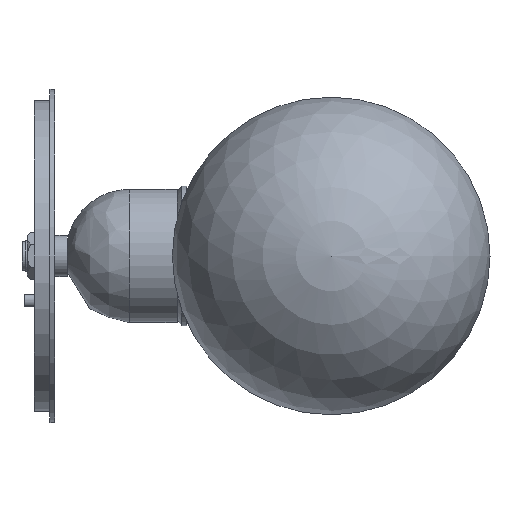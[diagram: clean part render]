
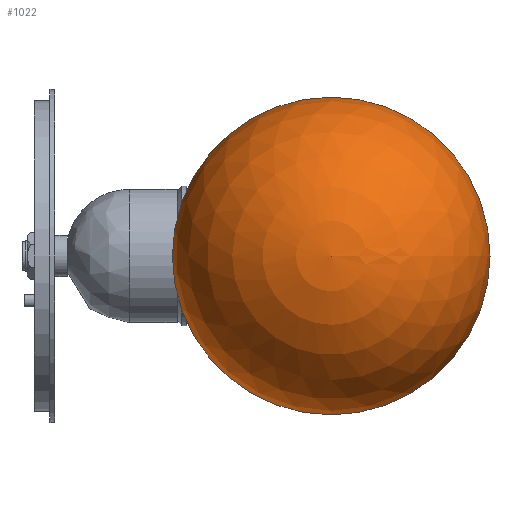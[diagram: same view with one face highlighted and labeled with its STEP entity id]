
A CAD part, left-side view. The second image highlights one B-rep face of the part: STEP entity #1022.
In plain terms, the highlighted spherical face has radius 50 mm.
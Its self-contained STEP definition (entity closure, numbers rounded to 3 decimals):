
#13=SPHERICAL_SURFACE('',#1169,50.);
#150=FACE_OUTER_BOUND('',#221,.T.);
#221=EDGE_LOOP('',(#836,#837,#838,#839));
#269=CIRCLE('',#1164,50.);
#271=CIRCLE('',#1166,50.);
#272=CIRCLE('',#1170,50.);
#450=VERTEX_POINT('',#1816);
#451=VERTEX_POINT('',#1817);
#455=VERTEX_POINT('',#3156);
#576=EDGE_CURVE('',#450,#451,#269,.T.);
#579=EDGE_CURVE('',#451,#450,#271,.T.);
#583=EDGE_CURVE('',#455,#451,#272,.T.);
#836=ORIENTED_EDGE('',*,*,#576,.T.);
#837=ORIENTED_EDGE('',*,*,#583,.F.);
#838=ORIENTED_EDGE('',*,*,#583,.T.);
#839=ORIENTED_EDGE('',*,*,#579,.T.);
#1022=ADVANCED_FACE('',(#150),#13,.T.);
#1164=AXIS2_PLACEMENT_3D('',#1818,#1440,#1441);
#1166=AXIS2_PLACEMENT_3D('',#1822,#1445,#1446);
#1169=AXIS2_PLACEMENT_3D('',#3155,#1452,#1453);
#1170=AXIS2_PLACEMENT_3D('',#3157,#1454,#1455);
#1440=DIRECTION('center_axis',(-1.,0.,0.));
#1441=DIRECTION('ref_axis',(0.,0.,
1.));
#1445=DIRECTION('center_axis',(-1.,0.,0.));
#1446=DIRECTION('ref_axis',(0.,0.,
1.));
#1452=DIRECTION('center_axis',(-1.,0.,0.));
#1453=DIRECTION('ref_axis',(0.,1.,0.));
#1454=DIRECTION('center_axis',(0.,0.,
1.));
#1455=DIRECTION('ref_axis',(0.,-1.,0.));
#1816=CARTESIAN_POINT('',(-200.,-87.05,-2.5));
#1817=CARTESIAN_POINT('',(-200.,-137.05,-52.5));
#1818=CARTESIAN_POINT('Origin',(-200.,-87.05,-52.5));
#1822=CARTESIAN_POINT('Origin',(-200.,-87.05,-52.5));
#3155=CARTESIAN_POINT('Origin',(-200.,-87.05,-52.5));
#3156=CARTESIAN_POINT('',(-250.,-87.05,-52.5));
#3157=CARTESIAN_POINT('Origin',(-200.,-87.05,-52.5));
